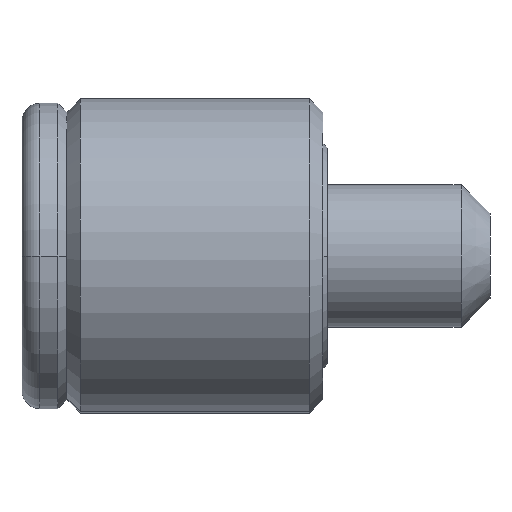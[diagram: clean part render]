
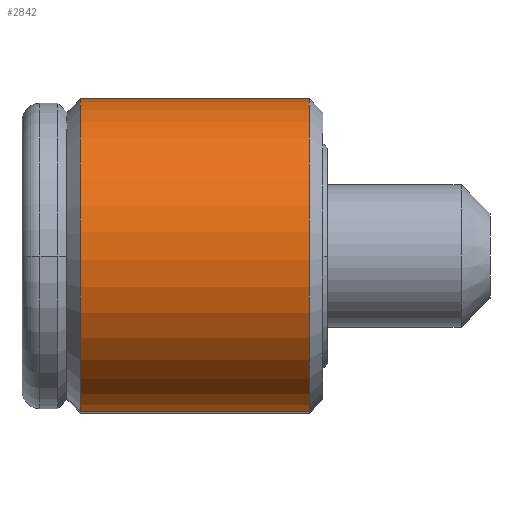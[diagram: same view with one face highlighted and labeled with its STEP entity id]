
A CAD part, left-side view. The second image highlights one B-rep face of the part: STEP entity #2842.
In plain terms, the highlighted cylindrical face has radius 17.5 mm (diameter 35 mm), a partial arc.
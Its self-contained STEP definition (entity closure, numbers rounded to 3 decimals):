
#992 = ORIENTED_EDGE ( 'NONE', *, *, #16524, .T. ) ;
#1762 = CYLINDRICAL_SURFACE ( 'NONE', #15970, 17.5 ) ;
#1788 = AXIS2_PLACEMENT_3D ( 'NONE', #2476, #7726, #9061 ) ;
#2211 = EDGE_CURVE ( 'NONE', #13543, #4516, #15688, .T. ) ;
#2476 = CARTESIAN_POINT ( 'NONE',  ( 0., 27., 0. ) ) ;
#2842 = ADVANCED_FACE ( 'NONE', ( #9591 ), #1762, .T. ) ;
#3617 = CARTESIAN_POINT ( 'NONE',  ( 0., 65.855, -17.5 ) ) ;
#4298 = CIRCLE ( 'NONE', #1788, 17.5 ) ;
#4312 = VECTOR ( 'NONE', #16681, 1000. ) ;
#4516 = VERTEX_POINT ( 'NONE', #16103 ) ;
#5531 = DIRECTION ( 'NONE',  ( 0., 1., 0. ) ) ;
#5788 = CARTESIAN_POINT ( 'NONE',  ( 0., 65.855, 0. ) ) ;
#5835 = CARTESIAN_POINT ( 'NONE',  ( 0., 65.855, 17.5 ) ) ;
#6988 = CARTESIAN_POINT ( 'NONE',  ( 0., 1.5, -17.5 ) ) ;
#7098 = ORIENTED_EDGE ( 'NONE', *, *, #2211, .F. ) ;
#7108 = DIRECTION ( 'NONE',  ( 0., 0., 1. ) ) ;
#7253 = EDGE_CURVE ( 'NONE', #13543, #7801, #14482, .T. ) ;
#7726 = DIRECTION ( 'NONE',  ( 0., -1., 0. ) ) ;
#7801 = VERTEX_POINT ( 'NONE', #11328 ) ;
#7958 = CARTESIAN_POINT ( 'NONE',  ( 0., 27., 17.5 ) ) ;
#9061 = DIRECTION ( 'NONE',  ( 0., 0., -1. ) ) ;
#9371 = DIRECTION ( 'NONE',  ( 0., 0., 1. ) ) ;
#9591 = FACE_OUTER_BOUND ( 'NONE', #15979, .T. ) ;
#9724 = CARTESIAN_POINT ( 'NONE',  ( 0., 1.5, 0. ) ) ;
#9730 = LINE ( 'NONE', #5835, #4312 ) ;
#11328 = CARTESIAN_POINT ( 'NONE',  ( 0., 1.5, 17.5 ) ) ;
#11783 = VECTOR ( 'NONE', #5531, 1000. ) ;
#11958 = AXIS2_PLACEMENT_3D ( 'NONE', #9724, #15093, #9371 ) ;
#12235 = ORIENTED_EDGE ( 'NONE', *, *, #7253, .T. ) ;
#12659 = VERTEX_POINT ( 'NONE', #7958 ) ;
#12997 = ORIENTED_EDGE ( 'NONE', *, *, #17045, .T. ) ;
#13543 = VERTEX_POINT ( 'NONE', #6988 ) ;
#14482 = CIRCLE ( 'NONE', #11958, 17.5 ) ;
#14957 = DIRECTION ( 'NONE',  ( 0., 1., 0. ) ) ;
#15093 = DIRECTION ( 'NONE',  ( 0., 1., 0. ) ) ;
#15688 = LINE ( 'NONE', #3617, #11783 ) ;
#15970 = AXIS2_PLACEMENT_3D ( 'NONE', #5788, #14957, #7108 ) ;
#15979 = EDGE_LOOP ( 'NONE', ( #7098, #12235, #12997, #992 ) ) ;
#16103 = CARTESIAN_POINT ( 'NONE',  ( 0., 27., -17.5 ) ) ;
#16524 = EDGE_CURVE ( 'NONE', #12659, #4516, #4298, .T. ) ;
#16681 = DIRECTION ( 'NONE',  ( 0., 1., 0. ) ) ;
#17045 = EDGE_CURVE ( 'NONE', #7801, #12659, #9730, .T. ) ;
